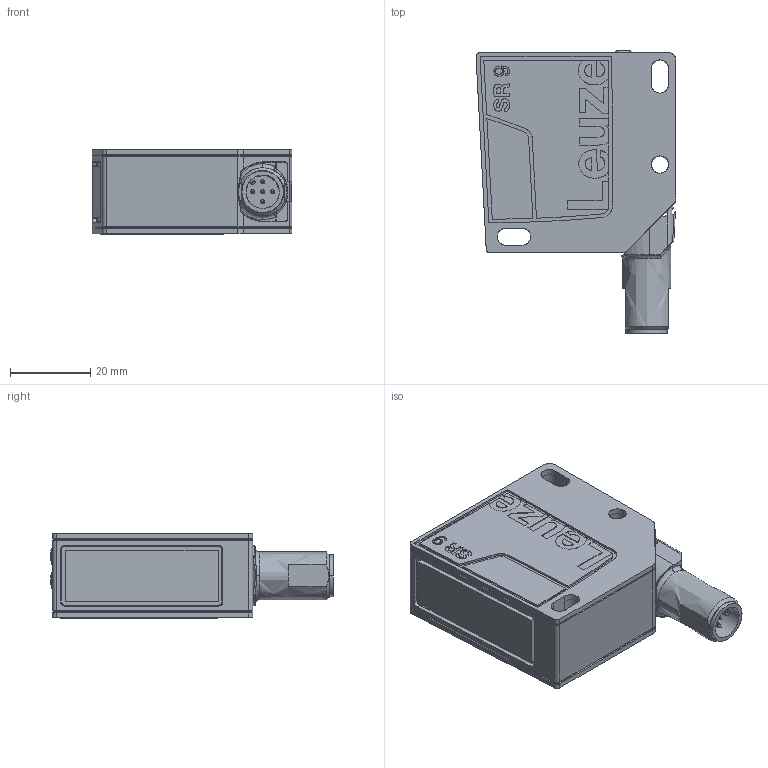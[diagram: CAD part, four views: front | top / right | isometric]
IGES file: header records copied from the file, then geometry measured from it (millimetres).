
Global section: file name: H:\lem\3DCAD_ODSL9_Stecker_unten.igs; native system: NX V11.0; preprocessor: SIEMENS PLM Software NX 11.0; date: 20171110.094101; units: millimetre
Bounding box: 49.96 x 70.51 x 21.1 mm (x, y, z)
Surface area: 11896.3 mm2 (no closed solid volume)
Topology: 0 solids, 0 shells, 741 faces, 4083 edges, 4074 vertices
Faces by surface type: bspline 741
